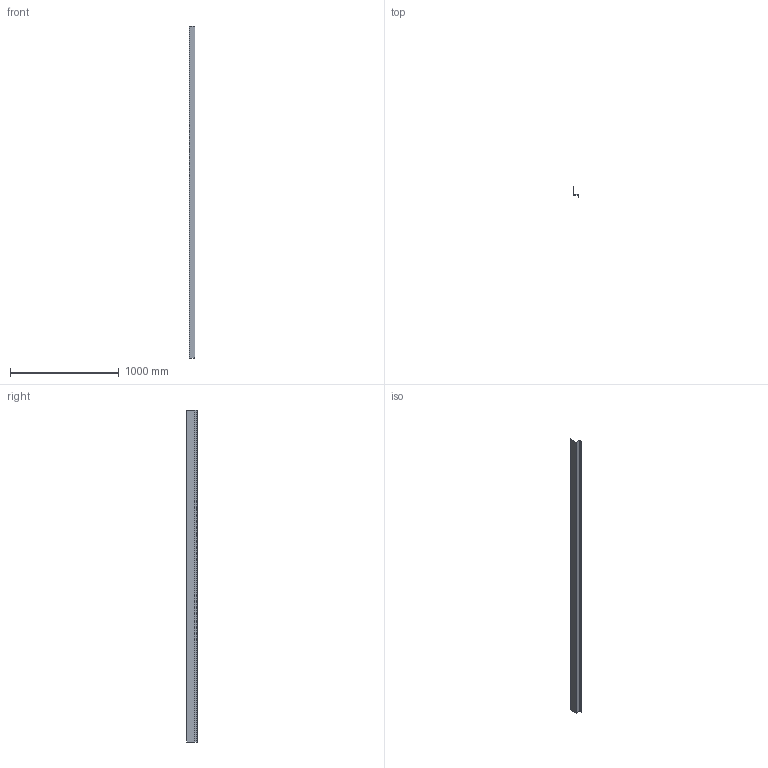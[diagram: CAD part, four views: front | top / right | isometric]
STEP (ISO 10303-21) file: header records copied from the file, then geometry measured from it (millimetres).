
FILE_DESCRIPTION (( 'STEP AP203' ), '1' );
FILE_NAME ('M51G.STEP', '2018-06-15T15:24:24', ( 'Michael Moliner' ), ( '' ), 'SwSTEP 2.0', 'SolidWorks 2018', '' );
FILE_SCHEMA (( 'CONFIG_CONTROL_DESIGN' ));
Length unit declared in the file: inch
Products named in the file (2): M51G
Bounding box: 48.13 x 100.96 x 3048 mm (x, y, z)
Volume: 249156.1 mm3; surface area: 984189.7 mm2
Topology: 1 solids, 1 shells, 18 faces, 48 edges, 32 vertices
Faces by surface type: plane 12, cylinder 6
Entity records: 721 total; most frequent: DIRECTION 100, CARTESIAN_POINT 100, ORIENTED_EDGE 96, EDGE_CURVE 48, LINE 36, VECTOR 36, VERTEX_POINT 32, AXIS2_PLACEMENT_3D 32
